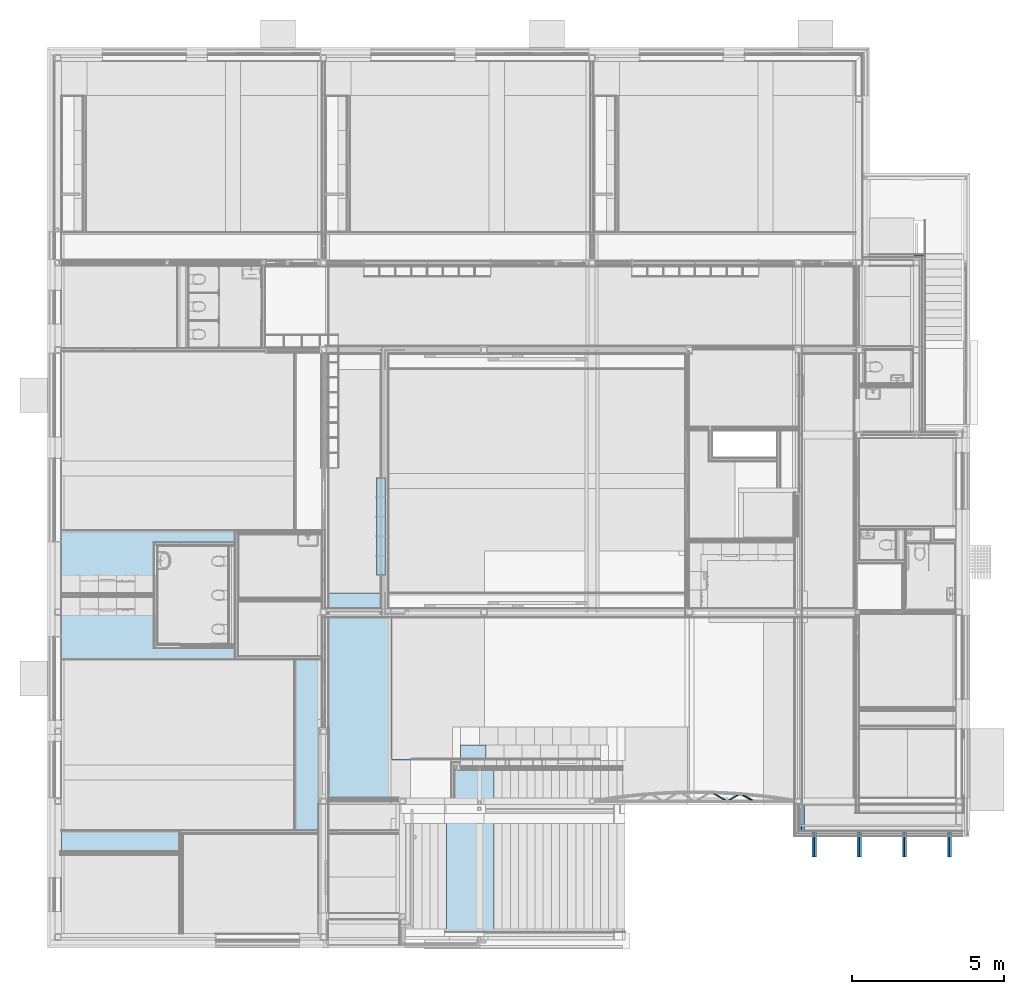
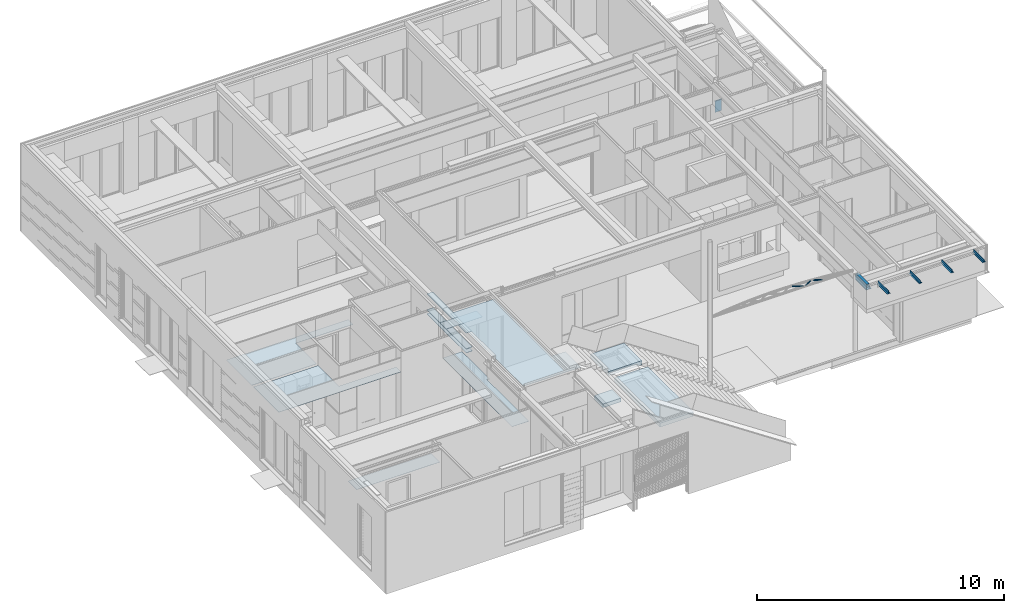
# One storey, part 17 of 165: 12 slabs, 9 beams, 2 elements without a shape of their own.
"""IFC2X3 building model written with IfcOpenShell, lengths in millimetres."""

from ifc_helpers import new_model, entity, si_unit, converted_unit, derived_unit, money_unit, direction, frame, origin_with_axes, place, context, subcontext, project, spatial, faceted_brep, material, type_object, element, aggregate, save


model = new_model("IFC2X3")

# Units and contexts
model_context = context("Model", 3, precision=0.01, world=origin_with_axes(), true_north=direction((0.0, 1.0)))
body_context = subcontext(model_context, "Body", "Model", "MODEL_VIEW")
ifc_project = project(units=[si_unit("LENGTHUNIT", "METRE", prefix="MILLI"), si_unit("AREAUNIT", "SQUARE_METRE"), si_unit("VOLUMEUNIT", "CUBIC_METRE"), converted_unit("PLANEANGLEUNIT", "DEGREE", entity("IfcPlaneAngleMeasure", 0.0174532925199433), si_unit("PLANEANGLEUNIT", "RADIAN"), dimensions=[0, 0, 0, 0, 0, 0, 0]), money_unit("EUR"), converted_unit("TIMEUNIT", "Year", entity("IfcTimeMeasure", 31556926.0), si_unit("TIMEUNIT", "SECOND"), dimensions=[0, 0, 1, 0, 0, 0, 0]), si_unit("MASSUNIT", "GRAM", prefix="KILO"), si_unit("THERMODYNAMICTEMPERATUREUNIT", "DEGREE_CELSIUS"), si_unit("LUMINOUSINTENSITYUNIT", "LUMEN"), si_unit("ENERGYUNIT", "JOULE", prefix="MEGA"), derived_unit("THERMALCONDUCTANCEUNIT", [(si_unit("POWERUNIT", "WATT"), 1), (si_unit("LENGTHUNIT", "METRE"), -1), (si_unit("THERMODYNAMICTEMPERATUREUNIT", "KELVIN"), -1)]), derived_unit("SPECIFICHEATCAPACITYUNIT", [(si_unit("ENERGYUNIT", "JOULE"), 1), (si_unit("MASSUNIT", "GRAM", prefix="KILO"), -1), (si_unit("THERMODYNAMICTEMPERATUREUNIT", "KELVIN"), -1)]), derived_unit("MASSDENSITYUNIT", [(si_unit("MASSUNIT", "GRAM", prefix="KILO"), 1), (si_unit("VOLUMEUNIT", "CUBIC_METRE"), -1)])], contexts=[model_context])

# Site, building, storey
site_placement = place(None, origin_with_axes())
site = spatial("IfcSite", under=ifc_project, at=site_placement, Name="Site", CompositionType="ELEMENT")
building_placement = place(site_placement, origin_with_axes())
building = spatial("IfcBuilding", under=site, at=building_placement, Name="Naam gebouw", CompositionType="ELEMENT")
storey_placement = place(building_placement, origin_with_axes())
storey = spatial("IfcBuildingStorey", under=building, at=storey_placement, Name="Begane grond", CompositionType="ELEMENT", Elevation=0.0)

# Beams
ifc_material_1 = material(Name="47 waterdichte laag - bitumen")
beam_type_1 = type_object("IfcBeamType", Name="41 Plint stucwerk 48 x 550", PredefinedType="BEAM")
beam_1_placement = place(storey_placement, frame((28316.00007135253, 22600.97621575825, 80.00000000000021), z_axis=(0.0, 0.0, 1.0), x_axis=(-1.495042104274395e-08, -0.9999999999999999, 0.0)))
element("IfcBeam", 1, at=beam_1_placement, inside=storey, type_object=beam_type_1, material=ifc_material_1, Name="g2- Gebakken klei_Regenwaterafvoer-x", ObjectType="BEAM", context=body_context, shape_type="Brep", body=[
    faceted_brep([(0.0, 0.0, 0.0), (0.0, 360.0000025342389, 0.0), (0.0, 360.0000025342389, -4.000000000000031), (0.0, 0.0, -4.000000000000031), (48.00000000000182, 0.0, 0.0), (47.99999999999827, 312.0000032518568, 0.0), (47.99999999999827, 312.0000032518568, -550.0000000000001), (44.00000000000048, 316.0000031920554, -550.0), (44.00000000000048, 316.0000031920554, -4.000000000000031), (44.00000000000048, 0.0, -4.000000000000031), (44.00000000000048, 0.0, -550.0), (48.00000000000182, 0.0, -550.0000000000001)], [[[0, 1, 2, 3]], [[4, 5, 1, 0]], [[2, 1, 5, 6, 7, 8]], [[3, 2, 8, 9]], [[4, 0, 3, 9, 10, 11]], [[11, 6, 5, 4]], [[10, 7, 6, 11]], [[9, 8, 7, 10]]]),
])
ifc_material_2 = material(Name="Metaal - Staal C")
beam_type_2 = type_object("IfcBeamType", Name="T140 140 x 140", PredefinedType="BEAM")
for number, where, z_axis, x_axis, name in (
    (2, (25019.99903943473, 3599.999999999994, 3790.000000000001), (0.0, 0.0, 1.0), (-1.0, 0.0, 0.0), "h METAAL_Regenwaterafvoer-x"),
    (3, (29479.99999999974, 3599.999999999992, 3790.000000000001), (0.0, 0.0, 1.0), (-1.0, 0.0, 0.0), "h METAAL_Regenwaterafvoer-x"),
    (4, (26504.9990389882, 3599.999999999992, 3790.000000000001), (0.0, 0.0, 1.0), (-1.0, 0.0, 0.0), "h METAAL_Regenwaterafvoer-x"),
    (5, (27994.99999999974, 3599.999999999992, 3790.000000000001), (0.0, 0.0, 1.0), (-1.0, 0.0, 0.0), "h METAAL_Regenwaterafvoer-x"),
):
    element("IfcBeam", number, at=place(storey_placement, frame(where, z_axis=z_axis, x_axis=x_axis)), inside=storey, type_object=beam_type_2, material=ifc_material_2, Name=name, ObjectType="BEAM", context=body_context, shape_type="Brep", body=[
        faceted_brep([(70.00000000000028, 0.0, -69.99999999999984), (70.00000000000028, 849.9999999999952, -69.99999999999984), (70.00000000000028, 849.9999999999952, -55.00000000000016), (70.00000000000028, 0.0, -55.00000000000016), (-70.00000000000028, 0.0, -69.99999999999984), (-70.00000000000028, 849.9999999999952, -69.99999999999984), (-70.00000000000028, 849.9999999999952, -55.00000000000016), (-7.500000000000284, 849.9999999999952, -55.00000000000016), (-7.500000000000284, 849.9999999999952, 69.99999999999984), (7.500000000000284, 849.9999999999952, 69.99999999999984), (7.500000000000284, 849.9999999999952, -55.00000000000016), (7.500000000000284, 0.0, -55.00000000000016), (7.500000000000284, 0.0, 69.99999999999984), (-7.500000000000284, 0.0, 69.99999999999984), (-7.500000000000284, 0.0, -55.00000000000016), (-70.00000000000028, 0.0, -55.00000000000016)], [[[0, 1, 2, 3]], [[4, 5, 1, 0]], [[2, 1, 5, 6, 7, 8, 9, 10]], [[3, 2, 10, 11]], [[4, 0, 3, 11, 12, 13, 14, 15]], [[15, 6, 5, 4]], [[14, 7, 6, 15]], [[13, 8, 7, 14]], [[12, 9, 8, 13]], [[11, 10, 9, 12]]]),
    ])
beam_type_3 = type_object("IfcBeamType", Name="28 THQ enkele flens 06 245 x 280", PredefinedType="BEAM")
beam_2_placement = place(storey_placement, frame((24499.99903999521, 4480.000006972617, 3860.0), z_axis=(0.0, 0.0, 1.0), x_axis=(-1.0, 0.0, 0.0)))
element("IfcBeam", 6, at=beam_2_placement, inside=storey, type_object=beam_type_3, material=ifc_material_2, Name="h METAAL_Regenwaterafvoer-x", ObjectType="BEAM", context=body_context, shape_type="Brep", body=[
    faceted_brep([(46.00000834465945, 0.0, -265.0000000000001), (46.00000834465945, 880.0000069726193, -265.0000000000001), (31.00000953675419, 880.0000069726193, -265.0000000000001), (31.00000953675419, 0.0, -265.0000000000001), (46.00000834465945, 0.0, -279.9999988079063), (46.00000834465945, 880.0000069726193, -279.9999988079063), (-198.9999916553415, 880.0000069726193, -279.9999988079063), (-198.9999916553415, 880.0000069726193, -265.0000000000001), (-100.9999999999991, 880.0000069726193, -265.0000000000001), (-100.9999999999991, 880.0000069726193, 1.192096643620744e-06), (31.00000953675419, 880.0000069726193, 1.192096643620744e-06), (-94.99999046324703, 880.0000069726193, -30.0000005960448), (-94.99999046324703, 880.0000069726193, -265.0000000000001), (25.00000834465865, 880.0000069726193, -265.0000000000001), (25.00000834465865, 880.0000069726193, -30.0000005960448), (31.00000953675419, 0.0, 1.192096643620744e-06), (-100.9999999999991, 0.0, 1.192096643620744e-06), (-100.9999999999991, 0.0, -265.0000000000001), (-198.9999916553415, 0.0, -265.0000000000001), (-198.9999916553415, 0.0, -279.9999988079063), (25.00000834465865, 0.0, -265.0000000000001), (-94.99999046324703, 0.0, -265.0000000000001), (-94.99999046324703, 0.0, -30.0000005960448), (25.00000834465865, 0.0, -30.0000005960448)], [[[0, 1, 2, 3]], [[4, 5, 1, 0]], [[2, 1, 5, 6, 7, 8, 9, 10], [11, 12, 13, 14]], [[3, 2, 10, 15]], [[4, 0, 3, 15, 16, 17, 18, 19], [20, 21, 22, 23]], [[19, 6, 5, 4]], [[18, 7, 6, 19]], [[17, 8, 7, 18]], [[16, 9, 8, 17]], [[15, 10, 9, 16]], [[21, 12, 11, 22]], [[20, 13, 12, 21]], [[23, 14, 13, 20]], [[22, 11, 14, 23]]]),
])
ifc_material_3 = material(Name="h2_staal_gen")
beam_type_4 = type_object("IfcBeamType", Name="balk_gen_ø42,4*5 windligger 42 x 42", PredefinedType="BEAM")
beam_3_placement = place(storey_placement, frame((21652.01923554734, 4868.706703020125, 3994.999990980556), z_axis=(0.0, 0.0, 1.0), x_axis=(-0.4999403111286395, -0.8660598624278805, 0.0)))
element("IfcBeam", 7, at=beam_3_placement, inside=storey, type_object=beam_type_4, material=ifc_material_3, Name="_Regenwaterafvoer-x", ObjectType="BEAM", context=body_context, shape_type="Brep", body=[
    faceted_brep([(-15.40711556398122, 120.5570201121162, -5.006075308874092), (-15.40711556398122, 517.2536639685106, -5.006075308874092), (-15.40711556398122, 515.2618856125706, 0.0), (-15.40711556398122, 517.2536639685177, 5.006075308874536), (-15.40711556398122, 120.5570201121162, 5.006075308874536), (-15.40711556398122, 122.6683201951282, 0.0), (-9.522121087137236, 106.1380696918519, -13.10607530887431), (-9.522121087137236, 510.2816970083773, -13.10607530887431), (-11.94945999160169, 516.0400146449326, -17.01027856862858), (-18.3597385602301, 524.594238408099, -10.60000000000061), (-21.20000100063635, 525.2970547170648, 0.0), (0.0, 495.0172607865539, -16.19999999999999), (9.522121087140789, 477.2908511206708, -13.10607530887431), (15.40711556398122, 463.8733540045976, -5.006075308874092), (15.40711556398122, 461.8815756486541, 0.0), (21.20000000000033, 451.8464082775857, 0.0), (18.35973856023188, 460.9841141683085, -10.60000000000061), (11.94945999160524, 474.6392816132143, -17.01027856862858), (-18.3597386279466, 524.5942385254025, 10.60000000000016), (-11.94945999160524, 516.0400146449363, 17.01027856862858), (11.94945991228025, 474.6392817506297, 17.01027856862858), (18.35973849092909, 460.9841142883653, 10.60000000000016), (15.40711556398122, 463.8733540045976, 5.006075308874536), (9.522121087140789, 477.2908511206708, 13.10607530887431), (0.0, 495.0172607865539, 16.19999999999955), (-9.522121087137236, 510.2816970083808, 13.10607530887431), (-9.522121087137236, 106.1380696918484, 13.10607530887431), (11.94945991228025, 64.34744943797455, 17.01027856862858), (-11.94945999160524, 109.0297206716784, 17.01027856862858), (-18.35973858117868, 123.7181250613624, 10.60000000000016), (-21.20000052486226, 133.4989040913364, 0.0), (0.0, 87.03031799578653, 16.19999999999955), (9.522121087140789, 70.53227672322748, 13.10607530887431), (15.40711556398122, 62.94563689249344, 5.006075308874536), (15.40711556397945, 65.05693697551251, 0.0), (21.1999996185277, 54.22635477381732, 0.0), (18.35973853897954, 55.0660837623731, 10.60000000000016), (-18.35973856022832, 123.7181250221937, -10.60000000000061), (-11.94945999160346, 109.0297206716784, -17.01027856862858), (11.94945999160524, 64.34744928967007, -17.01027856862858), (18.35973856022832, 55.0660837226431, -10.60000000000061), (15.40711556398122, 62.94563689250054, -5.006075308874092), (9.522121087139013, 70.53227672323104, -13.10607530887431), (0.0, 87.03031799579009, -16.19999999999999), (-10.60000000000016, 515.5058852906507, -18.35973856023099), (-10.60000000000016, 104.5949180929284, -18.35973856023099), (10.60000000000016, 478.7805629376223, -18.35973856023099), (10.60000000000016, 64.95864356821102, -18.35973856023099), (0.0, 500.939281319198, -21.20000000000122), (-10.60000000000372, 515.5058852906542, 18.35973856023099), (-10.60000000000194, 104.5949180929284, 18.35973856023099), (0.0, 500.939281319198, 21.20000000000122), (10.60000000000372, 478.7805629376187, 18.35973856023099), (10.60000000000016, 64.95864356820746, 18.35973856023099), (0.0, 80.75293155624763, 21.20000000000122), (0.0, 80.75293155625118, -21.20000000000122)], [[[0, 1, 2, 3, 4, 5]], [[6, 7, 1, 0]], [[8, 9, 10, 2, 1, 7, 11, 12, 13, 14, 15, 16, 17]], [[2, 10, 18, 19, 20, 21, 15, 14, 22, 23, 24, 25, 3]], [[4, 3, 25, 26]], [[27, 28, 29, 30, 5, 4, 26, 31, 32, 33, 34, 35, 36]], [[0, 5, 30, 37, 38, 39, 40, 35, 34, 41, 42, 43, 6]], [[43, 11, 7, 6]], [[9, 8, 44, 45, 38, 37]], [[30, 10, 9, 37]], [[42, 12, 11, 43]], [[41, 13, 12, 42]], [[22, 14, 13, 41, 34, 33]], [[40, 16, 15, 35]], [[46, 17, 16, 40, 39, 47]], [[48, 44, 8, 17, 46]], [[29, 18, 10, 30]], [[49, 19, 18, 29, 28, 50]], [[20, 19, 49, 51, 52]], [[21, 20, 52, 53, 27, 36]], [[35, 15, 21, 36]], [[32, 23, 22, 33]], [[31, 24, 23, 32]], [[26, 25, 24, 31]], [[53, 54, 50, 28, 27]], [[47, 39, 38, 45, 55]], [[45, 44, 48, 55]], [[55, 48, 46, 47]], [[54, 51, 49, 50]], [[53, 52, 51, 54]]]),
])
beam_4_placement = place(storey_placement, frame((22152.0926630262, 4579.999999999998, 3994.999990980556), z_axis=(0.0, 0.0, 1.0), x_axis=(0.5000000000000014, -0.8660254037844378, 0.0)))
element("IfcBeam", 8, at=beam_4_placement, inside=storey, type_object=beam_type_4, material=ifc_material_3, Name="_Regenwaterafvoer-x", ObjectType="BEAM", context=body_context, shape_type="Brep", body=[
    faceted_brep([(15.40711556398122, 113.5943663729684, -5.006075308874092), (15.40711556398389, 115.5859069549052, 0.0), (15.40711556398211, 113.5943663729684, 5.006075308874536), (15.40711556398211, 428.519950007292, 5.006075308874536), (15.407115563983, 426.7594529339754, 0.0), (15.40711556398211, 428.519950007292, -5.006075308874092), (11.94945999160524, 102.8299622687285, -17.01027856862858), (18.35973856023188, 116.4830578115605, -10.60000000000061), (21.20000000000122, 125.6194771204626, 0.0), (9.522121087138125, 100.1788765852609, -13.10607530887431), (0.0, 82.4552392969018, -16.19999999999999), (-9.522121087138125, 67.1932815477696, -13.10607530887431), (-15.40711556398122, 60.22255246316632, -5.006075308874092), (-15.40711556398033, 62.21409304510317, 0.0), (-21.20000036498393, 52.1805222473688, 0.0), (-18.35973856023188, 52.88305781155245, -10.60000000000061), (-11.94945999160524, 61.43581861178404, -17.01027856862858), (18.35973861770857, 116.4830579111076, 10.60000000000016), (11.94946017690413, 102.8299625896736, 17.01027856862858), (-11.94945999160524, 61.43581861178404, 17.01027856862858), (-18.35973850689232, 52.88305790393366, 10.60000000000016), (-15.40711556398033, 60.22255246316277, 5.006075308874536), (-9.522121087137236, 67.1932815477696, 13.10607530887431), (0.0, 82.4552392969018, 16.19999999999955), (9.522121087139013, 100.1788765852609, 13.10607530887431), (9.522121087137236, 422.7882288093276, 13.10607530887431), (-11.94945999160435, 392.8558696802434, 17.01027856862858), (11.94946017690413, 427.7002652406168, 17.01027856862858), (18.35973872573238, 434.7920734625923, 10.60000000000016), (21.20000063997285, 435.2054236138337, 0.0), (0.0, 409.9931149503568, 16.19999999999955), (-9.522121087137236, 395.0219070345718, 13.10607530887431), (-15.40711556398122, 383.5930976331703, 5.006075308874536), (-15.40711556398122, 381.83260055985, 0.0), (-21.19999997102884, 373.3866308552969, 0.0), (-18.3597384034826, 381.255429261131, 10.60000000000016), (18.35973856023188, 434.792073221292, -10.60000000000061), (11.94945999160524, 427.7002649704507, -17.01027856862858), (-11.94945999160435, 392.8558696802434, -17.01027856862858), (-18.35973856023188, 381.2554290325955, -10.60000000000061), (-15.407115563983, 383.5930976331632, -5.006075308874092), (-9.522121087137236, 395.0219070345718, -13.10607530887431), (0.0, 409.9931149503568, -16.19999999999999), (9.522121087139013, 422.7882288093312, -13.10607530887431), (10.60000000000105, 98.6892683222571, -18.35973856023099), (10.60000000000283, 427.3269136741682, -18.35973856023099), (-10.60000000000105, 61.96979120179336, -18.35973856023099), (-10.60000000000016, 396.4175177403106, -18.35973856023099), (0.0, 76.53392572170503, -21.20000000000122), (10.60000000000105, 98.6892683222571, 18.35973856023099), (10.60000000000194, 427.3269136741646, 18.35973856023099), (0.0, 76.53392572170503, 21.20000000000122), (-10.60000000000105, 61.96979120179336, 18.35973856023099), (-10.60000000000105, 396.4175177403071, 18.35973856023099), (0.0, 415.2274824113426, 21.20000000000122), (0.0, 415.2274824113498, -21.20000000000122)], [[[0, 1, 2, 3, 4, 5]], [[6, 7, 8, 1, 0, 9, 10, 11, 12, 13, 14, 15, 16]], [[1, 8, 17, 18, 19, 20, 14, 13, 21, 22, 23, 24, 2]], [[3, 2, 24, 25]], [[26, 27, 28, 29, 4, 3, 25, 30, 31, 32, 33, 34, 35]], [[5, 4, 29, 36, 37, 38, 39, 34, 33, 40, 41, 42, 43]], [[43, 9, 0, 5]], [[7, 6, 44, 45, 37, 36]], [[29, 8, 7, 36]], [[42, 10, 9, 43]], [[41, 11, 10, 42]], [[40, 12, 11, 41]], [[21, 13, 12, 40, 33, 32]], [[39, 15, 14, 34]], [[46, 16, 15, 39, 38, 47]], [[48, 44, 6, 16, 46]], [[28, 17, 8, 29]], [[49, 18, 17, 28, 27, 50]], [[19, 18, 49, 51, 52]], [[20, 19, 52, 53, 26, 35]], [[34, 14, 20, 35]], [[31, 22, 21, 32]], [[30, 23, 22, 31]], [[25, 24, 23, 30]], [[53, 54, 50, 27, 26]], [[47, 38, 37, 45, 55]], [[45, 44, 48, 55]], [[55, 48, 46, 47]], [[54, 51, 49, 50]], [[53, 52, 51, 54]]]),
])
beam_5_placement = place(storey_placement, frame((22612.02850694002, 4818.192954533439, 3994.999990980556), z_axis=(0.0, 0.0, 1.0), x_axis=(-0.4999476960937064, -0.8660555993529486, 0.0)))
element("IfcBeam", 9, at=beam_5_placement, inside=storey, type_object=beam_type_4, material=ifc_material_3, Name="_Regenwaterafvoer-x", ObjectType="BEAM", context=body_context, shape_type="Brep", body=[
    faceted_brep([(-15.40711556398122, 132.9683161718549, -5.006075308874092), (-15.40711556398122, 416.2078256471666, -5.006075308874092), (-15.40711556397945, 414.2160767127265, 0.0), (-15.40711556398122, 416.2078256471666, 5.006075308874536), (-15.40711556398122, 132.9683161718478, 5.006075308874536), (-15.40711556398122, 135.2769820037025, 0.0), (-9.52212108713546, 116.9230258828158, -13.10607530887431), (-9.522121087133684, 409.2360118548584, -13.10607530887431), (-11.94945999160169, 414.9942237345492, -17.01027856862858), (-18.35973856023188, 423.5482664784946, -10.60000000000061), (-21.20000071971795, 424.2510477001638, 0.0), (0.0, 393.9718823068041, -16.19999999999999), (9.522121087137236, 376.2458156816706, -13.10607530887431), (15.40711556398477, 362.8285669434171, -5.006075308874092), (15.407115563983, 360.8368180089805, 0.0), (21.20000000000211, 350.8018482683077, 0.0), (18.35973856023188, 359.9393949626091, -10.60000000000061), (11.94945999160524, 373.5943060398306, -17.01027856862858), (-18.3597385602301, 423.5482664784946, 10.60000000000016), (-11.94945999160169, 414.9942237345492, 17.01027856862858), (11.94945999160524, 373.5943060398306, 17.01027856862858), (18.35973856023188, 359.9393949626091, 10.60000000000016), (15.40711556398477, 362.8285669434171, 5.006075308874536), (9.522121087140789, 376.2458156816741, 13.10607530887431), (0.0, 393.9718823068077, 16.19999999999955), (-9.52212108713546, 409.2360118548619, 13.10607530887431), (-9.522121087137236, 116.9230258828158, 13.10607530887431), (11.94945999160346, 70.20986897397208, 17.01027856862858), (-11.94945999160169, 120.1998391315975, 17.01027856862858), (-18.35973856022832, 136.5646257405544, 10.60000000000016), (-21.20000048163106, 147.3941046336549, 0.0), (0.0, 95.57853249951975, 16.19999999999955), (9.522121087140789, 77.08770702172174, 13.10607530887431), (15.40711556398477, 68.51341630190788, 5.006075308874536), (15.40711556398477, 70.82208213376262, 0.0), (21.19999970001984, 58.70496113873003, 0.0), (18.35973856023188, 59.75757476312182, 10.60000000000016), (-18.3597385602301, 136.5646257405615, -10.60000000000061), (-11.94945999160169, 120.1998391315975, -17.01027856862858), (11.94945999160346, 70.20986897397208, -17.01027856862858), (18.35973856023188, 59.75757476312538, -10.60000000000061), (15.40711556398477, 68.51341630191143, -5.006075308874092), (9.522121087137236, 77.08770702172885, -13.10607530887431), (0.0, 95.57853249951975, -16.19999999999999), (-10.59999999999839, 414.4601137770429, -18.35973856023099), (-10.59999999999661, 115.2866189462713, -18.35973856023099), (10.60000000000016, 377.735514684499, -18.35973856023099), (10.60000000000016, 70.94204738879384, -18.35973856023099), (0.0, 399.8938153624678, -21.20000000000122), (-10.59999999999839, 414.4601137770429, 18.35973856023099), (-10.59999999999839, 115.2866189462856, 18.35973856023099), (0.0, 399.8938153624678, 21.20000000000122), (10.60000000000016, 377.735514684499, 18.35973856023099), (10.60000000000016, 70.9420473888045, 18.35973856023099), (0.0, 88.71433176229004, 21.20000000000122), (0.0, 88.71433176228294, -21.20000000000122)], [[[0, 1, 2, 3, 4, 5]], [[6, 7, 1, 0]], [[8, 9, 10, 2, 1, 7, 11, 12, 13, 14, 15, 16, 17]], [[2, 10, 18, 19, 20, 21, 15, 14, 22, 23, 24, 25, 3]], [[4, 3, 25, 26]], [[27, 28, 29, 30, 5, 4, 26, 31, 32, 33, 34, 35, 36]], [[0, 5, 30, 37, 38, 39, 40, 35, 34, 41, 42, 43, 6]], [[43, 11, 7, 6]], [[9, 8, 44, 45, 38, 37]], [[30, 10, 9, 37]], [[42, 12, 11, 43]], [[41, 13, 12, 42]], [[22, 14, 13, 41, 34, 33]], [[40, 16, 15, 35]], [[46, 17, 16, 40, 39, 47]], [[48, 44, 8, 17, 46]], [[29, 18, 10, 30]], [[49, 19, 18, 29, 28, 50]], [[20, 19, 49, 51, 52]], [[21, 20, 52, 53, 27, 36]], [[35, 15, 21, 36]], [[32, 23, 22, 33]], [[31, 24, 23, 32]], [[26, 25, 24, 31]], [[53, 54, 50, 28, 27]], [[47, 39, 38, 45, 55]], [[45, 44, 48, 55]], [[55, 48, 46, 47]], [[54, 51, 49, 50]], [[53, 52, 51, 54]]]),
])

# Slabs
ifc_material_4 = material(Name="Gipsplaat")
slab_type_1 = type_object("IfcSlabType", Name="Gipsplaat 12", PredefinedType="NOTDEFINED")
slab_1_placement = place(storey_placement, frame((10740.00000000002, 11444.9988167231, 2600.0), z_axis=(0.0, 0.0, 1.0), x_axis=(1.0, 0.0, 0.0)))
element("IfcSlab", 10, at=slab_1_placement, inside=storey, type_object=slab_type_1, material=ifc_material_4, Name="f7 Vormvaste grondstoffen, gebonden met gips_Vloer-x", PredefinedType="NOTDEFINED", context=body_context, shape_type="Brep", body=[
    faceted_brep([(0.0, 0.0, 12.00000000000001), (0.0, 0.0, 0.0), (-1715.000000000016, 0.0, 0.0), (-1715.000000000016, 0.0, 12.00000000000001), (0.0, -500.0000000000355, 12.00000000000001), (0.0, -500.0000000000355, 0.0), (-1715.000000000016, -500.0000000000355, 0.0), (-1715.000000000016, -500.0000000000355, 12.00000000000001)], [[[0, 1, 2, 3]], [[4, 5, 1, 0]], [[2, 1, 5, 6]], [[3, 2, 6, 7]], [[4, 0, 3, 7]], [[7, 6, 5, 4]]]),
])
slab_2_placement = place(storey_placement, frame((7887.500000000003, 3624.995712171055, 2600.0), z_axis=(0.0, 0.0, 1.0), x_axis=(1.0, 0.0, 0.0)))
element("IfcSlab", 11, at=slab_2_placement, inside=storey, type_object=slab_type_1, material=ifc_material_4, Name="f7 Vormvaste grondstoffen, gebonden met gips_Vloer-x", PredefinedType="NOTDEFINED", context=body_context, shape_type="Brep", body=[
    faceted_brep([(0.0, 0.0, 12.00000000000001), (0.0, 0.0, 0.0), (787.4999999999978, 0.0, 0.0), (787.4999999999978, 0.0, 12.00000000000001), (0.0, 5610.004403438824, 12.00000000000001), (0.0, 5610.004403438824, 0.0), (900.0000000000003, 5610.004403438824, 0.0), (900.0000000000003, 3380.004287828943, 0.0), (787.4999999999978, 3380.004287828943, 0.0), (787.4999999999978, 3380.004287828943, 12.00000000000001), (900.0000000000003, 3380.004287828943, 12.00000000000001), (900.0000000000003, 5610.004403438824, 12.00000000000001)], [[[0, 1, 2, 3]], [[4, 5, 1, 0]], [[2, 1, 5, 6, 7, 8]], [[3, 2, 8, 9]], [[4, 0, 3, 9, 10, 11]], [[11, 6, 5, 4]], [[10, 7, 6, 11]], [[9, 8, 7, 10]]]),
])
slab_3_placement = place(storey_placement, frame((214.0044252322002, 11307.50064567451, 2600.0), z_axis=(0.0, 0.0, 1.0), x_axis=(1.0, 0.0, 0.0)))
element("IfcSlab", 12, at=slab_3_placement, inside=storey, type_object=slab_type_1, material=ifc_material_4, Name="f7 Vormvaste grondstoffen, gebonden met gips_Vloer-x", PredefinedType="NOTDEFINED", context=body_context, shape_type="Brep", body=[
    faceted_brep([(0.0, 0.0, 12.00000000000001), (0.0, 0.0, 0.0), (-0.004425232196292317, -2072.501162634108, 0.0), (-0.004425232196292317, -2072.501162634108, 12.00000000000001), (3035.987395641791, -0.006467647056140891, 12.00000000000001), (3035.987395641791, -0.006467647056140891, 0.0), (3035.983821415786, -1682.500513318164, 0.0), (5710.996006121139, -1682.506215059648, 0.0), (5710.995155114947, -2072.500652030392, 0.0), (5710.995155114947, -2072.500652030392, 12.00000000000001), (5710.996006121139, -1682.506215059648, 12.00000000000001), (3035.983821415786, -1682.500513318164, 12.00000000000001)], [[[0, 1, 2, 3]], [[4, 5, 1, 0]], [[2, 1, 5, 6, 7, 8]], [[3, 2, 8, 9]], [[4, 0, 3, 9, 10, 11]], [[11, 6, 5, 4]], [[10, 7, 6, 11]], [[9, 8, 7, 10]]]),
])
slab_4_placement = place(storey_placement, frame((5924.999597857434, 13505.00027460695, 2600.0), z_axis=(0.0, 0.0, 1.0), x_axis=(1.0, 0.0, 0.0)))
element("IfcSlab", 13, at=slab_4_placement, inside=storey, type_object=slab_type_1, material=ifc_material_4, Name="f7 Vormvaste grondstoffen, gebonden met gips_Vloer-x", PredefinedType="NOTDEFINED", context=body_context, shape_type="Brep", body=[
    faceted_brep([(0.0, 0.0, 12.00000000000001), (0.0, 0.0, 0.0), (-5710.999597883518, 0.0, 0.0), (-5710.999597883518, 0.0, 12.00000000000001), (-0.000833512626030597, -390.0051587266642, 12.00000000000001), (-0.000833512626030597, -390.0051587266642, 0.0), (-2675.003668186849, -389.9995484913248, 0.0), (-2675.0071968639, -2072.499576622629, 0.0), (-5711.004027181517, -2072.49298140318, 0.0), (-5711.004027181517, -2072.49298140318, 12.00000000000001), (-2675.0071968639, -2072.499576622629, 12.00000000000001), (-2675.003668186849, -389.9995484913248, 12.00000000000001)], [[[0, 1, 2, 3]], [[4, 5, 1, 0]], [[2, 1, 5, 6, 7, 8]], [[3, 2, 8, 9]], [[4, 0, 3, 9, 10, 11]], [[11, 6, 5, 4]], [[10, 7, 6, 11]], [[9, 8, 7, 10]]]),
])
slab_5_placement = place(storey_placement, frame((4099.999999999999, 3624.995712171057, 2600.0), z_axis=(0.0, 0.0, 1.0), x_axis=(1.0, 0.0, 0.0)))
element("IfcSlab", 14, at=slab_5_placement, inside=storey, type_object=slab_type_1, material=ifc_material_4, Name="f7 Vormvaste grondstoffen, gebonden met gips_Vloer-x", PredefinedType="NOTDEFINED", context=body_context, shape_type="Brep", body=[
    faceted_brep([(0.0, 0.0, 12.00000000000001), (0.0, 0.0, 0.0), (-3885.999999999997, 0.0, 0.0), (-3885.999999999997, 0.0, 12.00000000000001), (0.0, -699.9999999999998, 12.00000000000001), (0.0, -699.9999999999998, 0.0), (-3885.999999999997, -699.9999999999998, 0.0), (-3885.999999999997, -699.9999999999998, 12.00000000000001)], [[[0, 1, 2, 3]], [[4, 5, 1, 0]], [[2, 1, 5, 6]], [[3, 2, 6, 7]], [[4, 0, 3, 7]], [[7, 6, 5, 4]]]),
])
slab_6_placement = place(storey_placement, frame((9025.0, 4693.999999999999, 3560.0), z_axis=(0.0, 0.0, 1.0), x_axis=(1.0, 0.0, 0.0)))
element("IfcSlab", 15, at=slab_6_placement, inside=storey, type_object=slab_type_1, material=ifc_material_4, Name="f7 Vormvaste grondstoffen, gebonden met gips_Vloer-x", PredefinedType="NOTDEFINED", context=body_context, shape_type="Brep", body=[
    faceted_brep([(2083.79558837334, 1276.000018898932, 12.00000000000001), (2077.545592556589, 1276.000018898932, 12.00000000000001), (2077.545592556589, 5925.968127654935, 12.00000000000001), (2090.045592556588, 5925.968127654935, 12.00000000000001), (2090.045629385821, 5925.998816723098, 12.00000000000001), (0.0, 5925.998816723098, 12.00000000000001), (0.0, 0.0, 12.00000000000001), (2700.044316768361, 0.0, 12.00000000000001), (2700.044316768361, 1263.500436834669, 12.00000000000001), (2083.795596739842, 1263.500024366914, 12.00000000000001), (2077.545592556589, 1276.000018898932, 6.479785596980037e-07), (2083.79558837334, 1276.000018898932, 6.479785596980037e-07), (2077.545592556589, 5925.968127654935, 6.479785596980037e-07), (2090.045592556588, 5925.968127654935, 6.479785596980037e-07), (2090.045629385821, 5925.998816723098, 0.0), (0.0, 5925.998816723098, 0.0), (0.0, 0.0, 0.0), (2700.044316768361, 0.0, 0.0), (2700.044316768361, 1263.500436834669, 3.74579922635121e-07), (2083.795596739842, 1263.500024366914, 3.74579922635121e-07)], [[[0, 1, 2, 3, 4, 5, 6, 7, 8, 9]], [[10, 1, 0, 11]], [[12, 2, 1, 10]], [[12, 13, 3, 2]], [[4, 3, 13, 14]], [[14, 15, 5, 4]], [[15, 16, 6, 5]], [[16, 17, 7, 6]], [[7, 17, 18, 8]], [[18, 19, 9, 8]], [[19, 11, 0, 9]], [[12, 10, 11, 19, 18, 17, 16, 15, 14, 13]]]),
])
ifc_material_5 = material(Name="Beton gewapend C vloer")
slab_type_2 = type_object("IfcSlabType", Name="Beton gewapend C vloer 180", PredefinedType="NOTDEFINED")
slab_7_placement = place(storey_placement, frame((14200.00003302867, 6430.000286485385, 540.0), z_axis=(0.0, 0.0, 1.0), x_axis=(1.0, 0.0, 0.0)))
element("IfcSlab", 16, at=slab_7_placement, inside=storey, type_object=slab_type_2, material=ifc_material_5, Name="f2- Met cement gebonden producten (alle vulmiddelen)_Vloer-x", PredefinedType="NOTDEFINED", context=body_context, shape_type="Brep", body=[
    faceted_brep([(0.0, 0.0, 0.0), (0.0, 0.0, -180.0), (-841.4298772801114, 0.0, -180.0), (-841.4298772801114, 0.0, 0.0), (0.0, -700.0029192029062, 0.0), (0.0, -700.0029192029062, -180.0), (-841.4298772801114, -700.0029820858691, -180.0), (-841.4298772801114, -700.0029820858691, 0.0)], [[[0, 1, 2, 3]], [[4, 5, 1, 0]], [[2, 1, 5, 6]], [[3, 2, 6, 7]], [[4, 0, 3, 7]], [[7, 6, 5, 4]]]),
])
ifc_material_6 = material(Name="Hout AFW")
slab_type_3 = type_object("IfcSlabType", Name="Hout AFW 18", PredefinedType="NOTDEFINED")
slab_8_placement = place(storey_placement, frame((10882.00000000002, 15235.00003229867, 1200.0), z_axis=(0.0, 0.0, 1.0), x_axis=(1.0, 0.0, 0.0)))
element("IfcSlab", 17, at=slab_8_placement, inside=storey, type_object=slab_type_3, material=ifc_material_6, Name="i HOUT_Vloer-x", PredefinedType="NOTDEFINED", context=body_context, shape_type="Brep", body=[
    faceted_brep([(0.0, 0.0, 0.0), (0.0, 0.0, -18.00000000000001), (-282.0, 0.0, -18.00000000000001), (-282.0, 0.0, 0.0), (0.0, -3200.000000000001, 0.0), (0.0, -3200.000000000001, -18.00000000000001), (-282.0, -3200.000000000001, -18.00000000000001), (-282.0, -3200.000000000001, 0.0)], [[[0, 1, 2, 3]], [[4, 5, 1, 0]], [[2, 1, 5, 6]], [[3, 2, 6, 7]], [[4, 0, 3, 7]], [[7, 6, 5, 4]]]),
])
slab_9_placement = place(storey_placement, frame((10900.00000000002, 15235.00003229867, 200.0000000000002), z_axis=(0.0, 0.0, 1.0), x_axis=(1.0, 0.0, 0.0)))
element("IfcSlab", 18, at=slab_9_placement, inside=storey, type_object=slab_type_3, material=ifc_material_6, Name="i HOUT_Vloer-x", PredefinedType="NOTDEFINED", context=body_context, shape_type="Brep", body=[
    faceted_brep([(0.0, 0.0, 17.99999999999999), (0.0, 0.0, 0.0), (-300.0000000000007, 0.0, 0.0), (-300.0000000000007, 0.0, 17.99999999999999), (0.0, -3200.000000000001, 17.99999999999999), (0.0, -3200.000000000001, 0.0), (-300.0000000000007, -3200.000000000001, 0.0), (-300.0000000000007, -3200.000000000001, 17.99999999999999)], [[[0, 1, 2, 3]], [[4, 5, 1, 0]], [[2, 1, 5, 6]], [[3, 2, 6, 7]], [[4, 0, 3, 7]], [[7, 6, 5, 4]]]),
])
slab_10_placement = place(storey_placement, frame((10900.00000000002, 15235.00003229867, 400.0000000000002), z_axis=(0.0, 0.0, 1.0), x_axis=(1.0, 0.0, 0.0)))
element("IfcSlab", 19, at=slab_10_placement, inside=storey, type_object=slab_type_3, material=ifc_material_6, Name="i HOUT_Vloer-x", PredefinedType="NOTDEFINED", context=body_context, shape_type="Brep", body=[
    faceted_brep([(0.0, 0.0, 18.00000000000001), (0.0, 0.0, 0.0), (-300.0000000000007, 0.0, 0.0), (-300.0000000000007, 0.0, 18.00000000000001), (0.0, -3200.000000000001, 18.00000000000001), (0.0, -3200.000000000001, 0.0), (-300.0000000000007, -3200.000000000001, 0.0), (-300.0000000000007, -3200.000000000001, 18.00000000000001)], [[[0, 1, 2, 3]], [[4, 5, 1, 0]], [[2, 1, 5, 6]], [[3, 2, 6, 7]], [[4, 0, 3, 7]], [[7, 6, 5, 4]]]),
])

# Stair, slab
stair_1_placement = place(storey_placement, frame((18790.00009135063, 299.9999999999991, -10.00000000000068), z_axis=(0.0, 0.0, 1.0), x_axis=(1.0, 0.0, 0.0)))
stair_1 = element("IfcStair", 20, at=stair_1_placement, inside=storey, Name="24_Trap-x", ShapeType="NOTDEFINED")
ifc_material_7 = material(Name="Beton gewapend prefab")
slab_type_4 = type_object("IfcSlabType", Name="IfcSlab", PredefinedType="LANDING")
slab_11_placement = place(stair_1_placement, origin_with_axes())
slab_11 = element("IfcSlab", 21, at=slab_11_placement, type_object=slab_type_4, material=ifc_material_7, Name="24_Trapconstructie-x", PredefinedType="LANDING", context=body_context, shape_type="Brep", body=[
    faceted_brep([(-5890.000143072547, 3709.999778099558, 2860.0), (-5890.000143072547, 3709.999778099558, 3060.0), (-4320.000216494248, 3709.999778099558, 3059.999937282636), (-4358.260371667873, 3709.999791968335, 2880.0), (-4320.000216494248, 3709.999778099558, 2880.0), (-4320.000216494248, 3709.999778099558, 2860.0), (-5889.999977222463, -0.0002808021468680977, 3060.0), (-5889.999977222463, -0.0002808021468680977, 2860.0), (-4319.999995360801, -0.0002255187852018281, 3059.999937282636), (-4358.260163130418, -0.0002238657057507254, 2880.0), (-4319.999995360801, -0.0002255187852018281, 2880.0), (-4319.999995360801, -0.0002255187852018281, 2860.0)], [[[0, 1, 2, 3, 4, 5]], [[6, 1, 0, 7]], [[1, 6, 8, 2]], [[9, 3, 2, 8]], [[9, 10, 4, 3]], [[5, 4, 10, 11]], [[7, 0, 5, 11]], [[6, 7, 11, 10, 9, 8]]]),
])
aggregate(stair_1, [slab_11])

stair_2_placement = place(storey_placement, frame((18790.00009135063, 4480.000241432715, 0.0), z_axis=(0.0, 0.0, 1.0), x_axis=(1.0, 0.0, 0.0)))
stair_2 = element("IfcStair", 22, at=stair_2_placement, inside=storey, Name="24_Trap-x", ShapeType="NOTDEFINED")
slab_12_placement = place(stair_2_placement, origin_with_axes())
slab_12 = element("IfcSlab", 23, at=slab_12_placement, type_object=slab_type_4, material=ifc_material_7, Name="24_Trapconstructie-x", PredefinedType="LANDING", context=body_context, shape_type="Brep", body=[
    faceted_brep([(-5890.000044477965, 1449.999740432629, 2860.0), (-5890.000044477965, 1449.999740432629, 3060.0), (-4320.000071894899, 1449.999764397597, 3060.0), (-4358.260252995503, 1449.999770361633, 2880.0), (-4320.000071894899, 1449.999764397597, 2880.0), (-4320.000071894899, 1449.999764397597, 2860.0), (-5889.999996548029, -0.0002808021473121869, 3060.0), (-5889.999996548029, -0.0002808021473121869, 2860.0), (-4319.999999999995, -0.0002089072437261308, 3060.0), (-4358.260181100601, -0.0002238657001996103, 2880.0), (-4319.999999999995, -0.0002089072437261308, 2880.0), (-4319.999999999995, -0.0002089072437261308, 2860.0)], [[[0, 1, 2, 3, 4, 5]], [[6, 1, 0, 7]], [[1, 6, 8, 2]], [[9, 3, 2, 8]], [[9, 10, 4, 3]], [[5, 4, 10, 11]], [[7, 0, 5, 11]], [[6, 7, 11, 10, 9, 8]]]),
])
aggregate(stair_2, [slab_12])

save(model, "model.ifc")
